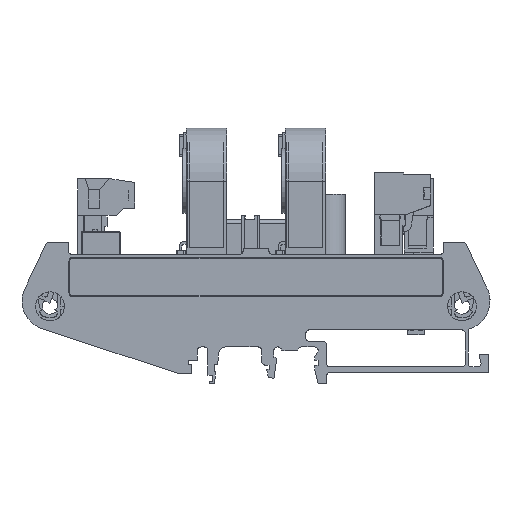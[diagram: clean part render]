
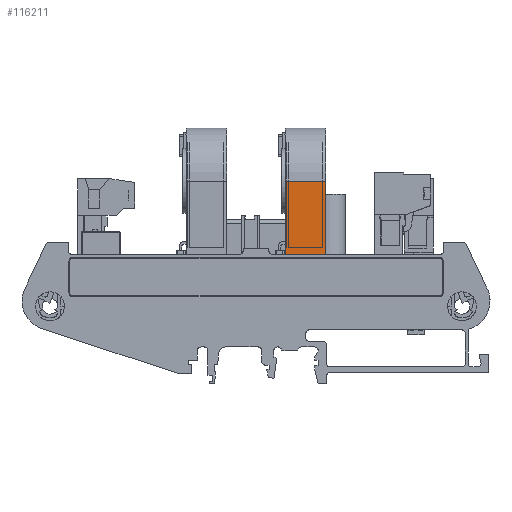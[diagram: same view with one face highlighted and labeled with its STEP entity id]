
A CAD part, left-side view. The second image highlights one B-rep face of the part: STEP entity #116211.
In plain terms, the highlighted planar face has unit normal (-1, 0, 0) as drawn and (1, 0, 0) by its records, which use the part's own axes.
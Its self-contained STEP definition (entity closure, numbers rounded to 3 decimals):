
#107272 = PLANE('',#107273);
#107273 = AXIS2_PLACEMENT_3D('',#107274,#107275,#107276);
#107274 = CARTESIAN_POINT('',(0.,5.,-1.));
#107275 = DIRECTION('',(0.,0.,1.));
#107276 = DIRECTION('',(1.,0.,-0.));
#110395 = VERTEX_POINT('',#110396);
#110396 = CARTESIAN_POINT('',(39.,5.,-1.));
#110410 = PLANE('',#110411);
#110411 = AXIS2_PLACEMENT_3D('',#110412,#110413,#110414);
#110412 = CARTESIAN_POINT('',(0.,5.,-12.));
#110413 = DIRECTION('',(0.,-1.,0.));
#110414 = DIRECTION('',(1.,0.,0.));
#110614 = VERTEX_POINT('',#110615);
#110615 = CARTESIAN_POINT('',(39.,25.,-1.));
#110630 = CYLINDRICAL_SURFACE('',#110631,14.5);
#110631 = AXIS2_PLACEMENT_3D('',#110632,#110633,#110634);
#110632 = CARTESIAN_POINT('',(24.5,25.,-12.));
#110633 = DIRECTION('',(0.,0.,1.));
#110634 = DIRECTION('',(1.,0.,-0.));
#110642 = EDGE_CURVE('',#110395,#110614,#110643,.T.);
#110643 = SURFACE_CURVE('',#110644,(#110648,#110655),.PCURVE_S1.);
#110644 = LINE('',#110645,#110646);
#110645 = CARTESIAN_POINT('',(39.,5.,-1.));
#110646 = VECTOR('',#110647,1.);
#110647 = DIRECTION('',(0.,1.,0.));
#110648 = PCURVE('',#107272,#110649);
#110649 = DEFINITIONAL_REPRESENTATION('',(#110650),#110654);
#110650 = LINE('',#110651,#110652);
#110651 = CARTESIAN_POINT('',(39.,0.));
#110652 = VECTOR('',#110653,1.);
#110653 = DIRECTION('',(0.,1.));
#110654 = ( GEOMETRIC_REPRESENTATION_CONTEXT(2) 
PARAMETRIC_REPRESENTATION_CONTEXT() REPRESENTATION_CONTEXT('2D SPACE',''
  ) );
#110655 = PCURVE('',#110656,#110661);
#110656 = PLANE('',#110657);
#110657 = AXIS2_PLACEMENT_3D('',#110658,#110659,#110660);
#110658 = CARTESIAN_POINT('',(39.,5.,-12.));
#110659 = DIRECTION('',(1.,0.,0.));
#110660 = DIRECTION('',(-0.,1.,0.));
#110661 = DEFINITIONAL_REPRESENTATION('',(#110662),#110666);
#110662 = LINE('',#110663,#110664);
#110663 = CARTESIAN_POINT('',(0.,11.));
#110664 = VECTOR('',#110665,1.);
#110665 = DIRECTION('',(1.,0.));
#110666 = ( GEOMETRIC_REPRESENTATION_CONTEXT(2) 
PARAMETRIC_REPRESENTATION_CONTEXT() REPRESENTATION_CONTEXT('2D SPACE',''
  ) );
#115614 = EDGE_CURVE('',#115615,#110395,#115617,.T.);
#115615 = VERTEX_POINT('',#115616);
#115616 = CARTESIAN_POINT('',(39.,5.,-9.4));
#115617 = SURFACE_CURVE('',#115618,(#115622,#115629),.PCURVE_S1.);
#115618 = LINE('',#115619,#115620);
#115619 = CARTESIAN_POINT('',(39.,5.,-9.4));
#115620 = VECTOR('',#115621,1.);
#115621 = DIRECTION('',(0.,0.,1.));
#115622 = PCURVE('',#110410,#115623);
#115623 = DEFINITIONAL_REPRESENTATION('',(#115624),#115628);
#115624 = LINE('',#115625,#115626);
#115625 = CARTESIAN_POINT('',(39.,2.6));
#115626 = VECTOR('',#115627,1.);
#115627 = DIRECTION('',(0.,1.));
#115628 = ( GEOMETRIC_REPRESENTATION_CONTEXT(2) 
PARAMETRIC_REPRESENTATION_CONTEXT() REPRESENTATION_CONTEXT('2D SPACE',''
  ) );
#115629 = PCURVE('',#110656,#115630);
#115630 = DEFINITIONAL_REPRESENTATION('',(#115631),#115635);
#115631 = LINE('',#115632,#115633);
#115632 = CARTESIAN_POINT('',(0.,2.6));
#115633 = VECTOR('',#115634,1.);
#115634 = DIRECTION('',(0.,1.));
#115635 = ( GEOMETRIC_REPRESENTATION_CONTEXT(2) 
PARAMETRIC_REPRESENTATION_CONTEXT() REPRESENTATION_CONTEXT('2D SPACE',''
  ) );
#115653 = PLANE('',#115654);
#115654 = AXIS2_PLACEMENT_3D('',#115655,#115656,#115657);
#115655 = CARTESIAN_POINT('',(39.,5.,-9.4));
#115656 = DIRECTION('',(0.,0.,1.));
#115657 = DIRECTION('',(-1.,0.,0.));
#115707 = PLANE('',#115708);
#115708 = AXIS2_PLACEMENT_3D('',#115709,#115710,#115711);
#115709 = CARTESIAN_POINT('',(0.,5.,-12.));
#115710 = DIRECTION('',(0.,0.,1.));
#115711 = DIRECTION('',(1.,0.,-0.));
#116167 = EDGE_CURVE('',#116168,#110614,#116170,.T.);
#116168 = VERTEX_POINT('',#116169);
#116169 = CARTESIAN_POINT('',(39.,25.,-12.));
#116170 = SURFACE_CURVE('',#116171,(#116175,#116182),.PCURVE_S1.);
#116171 = LINE('',#116172,#116173);
#116172 = CARTESIAN_POINT('',(39.,25.,-12.));
#116173 = VECTOR('',#116174,1.);
#116174 = DIRECTION('',(0.,0.,1.));
#116175 = PCURVE('',#110630,#116176);
#116176 = DEFINITIONAL_REPRESENTATION('',(#116177),#116181);
#116177 = LINE('',#116178,#116179);
#116178 = CARTESIAN_POINT('',(0.,0.));
#116179 = VECTOR('',#116180,1.);
#116180 = DIRECTION('',(0.,1.));
#116181 = ( GEOMETRIC_REPRESENTATION_CONTEXT(2) 
PARAMETRIC_REPRESENTATION_CONTEXT() REPRESENTATION_CONTEXT('2D SPACE',''
  ) );
#116182 = PCURVE('',#110656,#116183);
#116183 = DEFINITIONAL_REPRESENTATION('',(#116184),#116188);
#116184 = LINE('',#116185,#116186);
#116185 = CARTESIAN_POINT('',(20.,0.));
#116186 = VECTOR('',#116187,1.);
#116187 = DIRECTION('',(0.,1.));
#116188 = ( GEOMETRIC_REPRESENTATION_CONTEXT(2) 
PARAMETRIC_REPRESENTATION_CONTEXT() REPRESENTATION_CONTEXT('2D SPACE',''
  ) );
#116211 = ADVANCED_FACE('',(#116212),#110656,.T.);
#116212 = FACE_BOUND('',#116213,.F.);
#116213 = EDGE_LOOP('',(#116214,#116237,#116265,#116286,#116287,#116288)
  );
#116214 = ORIENTED_EDGE('',*,*,#116215,.T.);
#116215 = EDGE_CURVE('',#116168,#116216,#116218,.T.);
#116216 = VERTEX_POINT('',#116217);
#116217 = CARTESIAN_POINT('',(39.,3.7,-12.));
#116218 = SURFACE_CURVE('',#116219,(#116223,#116230),.PCURVE_S1.);
#116219 = LINE('',#116220,#116221);
#116220 = CARTESIAN_POINT('',(39.,25.,-12.));
#116221 = VECTOR('',#116222,1.);
#116222 = DIRECTION('',(0.,-1.,0.));
#116223 = PCURVE('',#110656,#116224);
#116224 = DEFINITIONAL_REPRESENTATION('',(#116225),#116229);
#116225 = LINE('',#116226,#116227);
#116226 = CARTESIAN_POINT('',(20.,0.));
#116227 = VECTOR('',#116228,1.);
#116228 = DIRECTION('',(-1.,0.));
#116229 = ( GEOMETRIC_REPRESENTATION_CONTEXT(2) 
PARAMETRIC_REPRESENTATION_CONTEXT() REPRESENTATION_CONTEXT('2D SPACE',''
  ) );
#116230 = PCURVE('',#115707,#116231);
#116231 = DEFINITIONAL_REPRESENTATION('',(#116232),#116236);
#116232 = LINE('',#116233,#116234);
#116233 = CARTESIAN_POINT('',(39.,20.));
#116234 = VECTOR('',#116235,1.);
#116235 = DIRECTION('',(0.,-1.));
#116236 = ( GEOMETRIC_REPRESENTATION_CONTEXT(2) 
PARAMETRIC_REPRESENTATION_CONTEXT() REPRESENTATION_CONTEXT('2D SPACE',''
  ) );
#116237 = ORIENTED_EDGE('',*,*,#116238,.T.);
#116238 = EDGE_CURVE('',#116216,#116239,#116241,.T.);
#116239 = VERTEX_POINT('',#116240);
#116240 = CARTESIAN_POINT('',(39.,3.7,-9.4));
#116241 = SURFACE_CURVE('',#116242,(#116246,#116253),.PCURVE_S1.);
#116242 = LINE('',#116243,#116244);
#116243 = CARTESIAN_POINT('',(39.,3.7,-12.));
#116244 = VECTOR('',#116245,1.);
#116245 = DIRECTION('',(0.,0.,1.));
#116246 = PCURVE('',#110656,#116247);
#116247 = DEFINITIONAL_REPRESENTATION('',(#116248),#116252);
#116248 = LINE('',#116249,#116250);
#116249 = CARTESIAN_POINT('',(-1.3,0.));
#116250 = VECTOR('',#116251,1.);
#116251 = DIRECTION('',(0.,1.));
#116252 = ( GEOMETRIC_REPRESENTATION_CONTEXT(2) 
PARAMETRIC_REPRESENTATION_CONTEXT() REPRESENTATION_CONTEXT('2D SPACE',''
  ) );
#116253 = PCURVE('',#116254,#116259);
#116254 = PLANE('',#116255);
#116255 = AXIS2_PLACEMENT_3D('',#116256,#116257,#116258);
#116256 = CARTESIAN_POINT('',(0.,3.7,-12.));
#116257 = DIRECTION('',(0.,-1.,0.));
#116258 = DIRECTION('',(1.,0.,0.));
#116259 = DEFINITIONAL_REPRESENTATION('',(#116260),#116264);
#116260 = LINE('',#116261,#116262);
#116261 = CARTESIAN_POINT('',(39.,0.));
#116262 = VECTOR('',#116263,1.);
#116263 = DIRECTION('',(0.,1.));
#116264 = ( GEOMETRIC_REPRESENTATION_CONTEXT(2) 
PARAMETRIC_REPRESENTATION_CONTEXT() REPRESENTATION_CONTEXT('2D SPACE',''
  ) );
#116265 = ORIENTED_EDGE('',*,*,#116266,.F.);
#116266 = EDGE_CURVE('',#115615,#116239,#116267,.T.);
#116267 = SURFACE_CURVE('',#116268,(#116272,#116279),.PCURVE_S1.);
#116268 = LINE('',#116269,#116270);
#116269 = CARTESIAN_POINT('',(39.,5.,-9.4));
#116270 = VECTOR('',#116271,1.);
#116271 = DIRECTION('',(0.,-1.,0.));
#116272 = PCURVE('',#110656,#116273);
#116273 = DEFINITIONAL_REPRESENTATION('',(#116274),#116278);
#116274 = LINE('',#116275,#116276);
#116275 = CARTESIAN_POINT('',(0.,2.6));
#116276 = VECTOR('',#116277,1.);
#116277 = DIRECTION('',(-1.,0.));
#116278 = ( GEOMETRIC_REPRESENTATION_CONTEXT(2) 
PARAMETRIC_REPRESENTATION_CONTEXT() REPRESENTATION_CONTEXT('2D SPACE',''
  ) );
#116279 = PCURVE('',#115653,#116280);
#116280 = DEFINITIONAL_REPRESENTATION('',(#116281),#116285);
#116281 = LINE('',#116282,#116283);
#116282 = CARTESIAN_POINT('',(0.,0.));
#116283 = VECTOR('',#116284,1.);
#116284 = DIRECTION('',(0.,1.));
#116285 = ( GEOMETRIC_REPRESENTATION_CONTEXT(2) 
PARAMETRIC_REPRESENTATION_CONTEXT() REPRESENTATION_CONTEXT('2D SPACE',''
  ) );
#116286 = ORIENTED_EDGE('',*,*,#115614,.T.);
#116287 = ORIENTED_EDGE('',*,*,#110642,.T.);
#116288 = ORIENTED_EDGE('',*,*,#116167,.F.);
